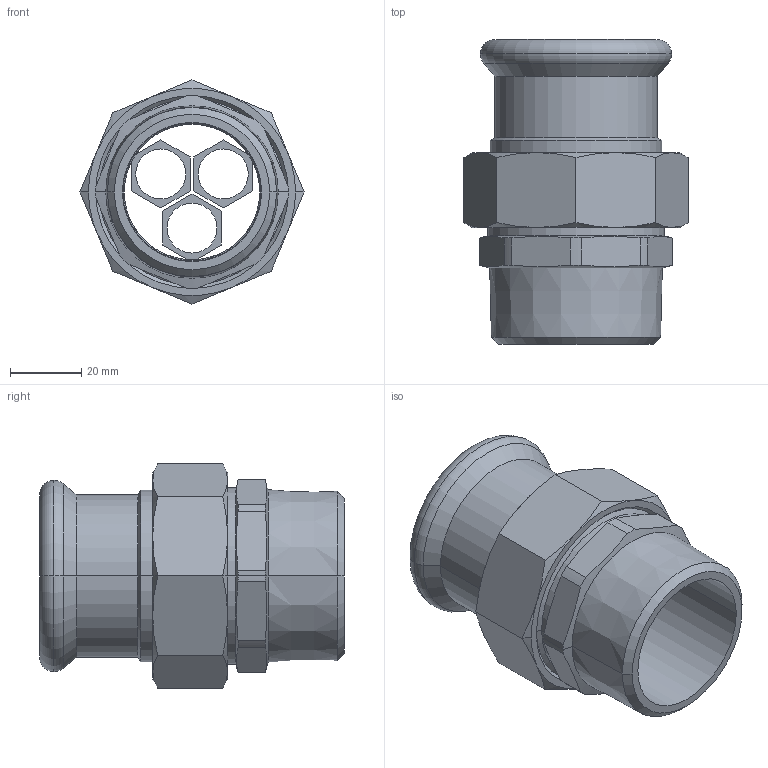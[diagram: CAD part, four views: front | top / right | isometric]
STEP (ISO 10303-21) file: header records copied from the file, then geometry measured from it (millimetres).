
FILE_DESCRIPTION(('OneSpaceDesigner STEP Export'),'2;1');
FILE_NAME('R2735 42xRp1 1-2.stp','2010-06-10T13:55:43',(''),(''),'OneSpace Designer STEP processor for AP214 (Solid Model)','OneSpace Modeling 15.00A 14-Mar-2007 (C) CoCreate Software GmbH','');
FILE_SCHEMA(('AUTOMOTIVE_DESIGN { 1 0 10303 214 1 1 1 1 }'));
Length unit declared in the file: millimetre
Products named in the file (2): R2735_42xRp1_1-2
Assembly tree (1 placements, depth 2):
  R2735_42xRp1_1-2
    R2735_42xRp1_1-2
Bounding box: 62.78 x 85.4 x 62.78 mm (x, y, z)
Volume: 65679.1 mm3; surface area: 33583.7 mm2
Topology: 1 solids, 1 shells, 152 faces, 366 edges, 221 vertices
Faces by surface type: cone 53, plane 50, cylinder 41, torus 8
Entity records: 5828 total; most frequent: CARTESIAN_POINT 2775, ORIENTED_EDGE 732, DIRECTION 469, EDGE_CURVE 366, VERTEX_POINT 221, EDGE_LOOP 165, VECTOR 163, LINE 163
